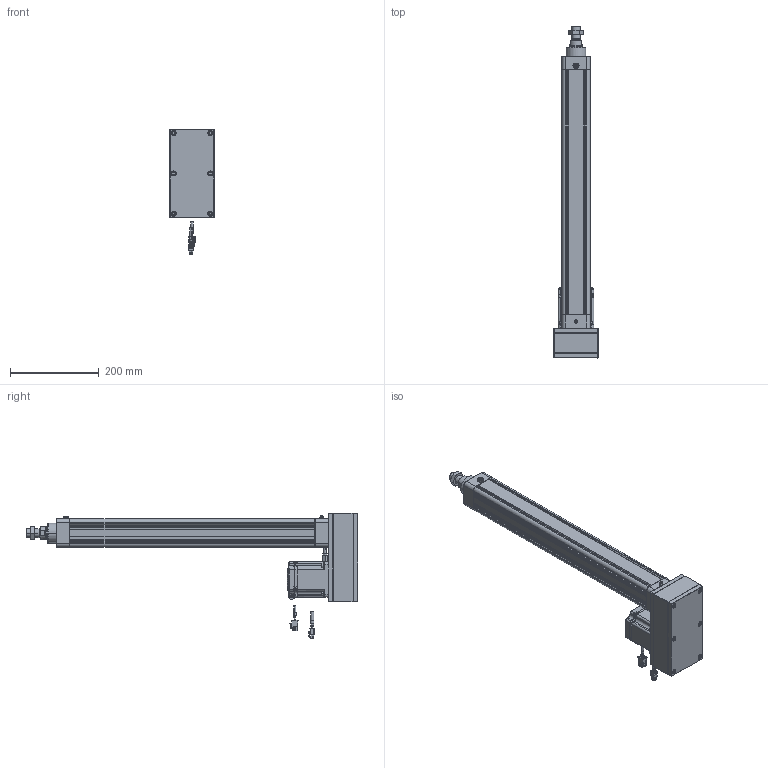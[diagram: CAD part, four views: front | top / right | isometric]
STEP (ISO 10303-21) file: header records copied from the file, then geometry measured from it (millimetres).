
FILE_DESCRIPTION((''),'2;1');
FILE_NAME('HE50-D-100-X1_ASM','2020-04-07T',('ASUS20200'),(''),'CREO PARAMETRIC BY PTC INC, 2014190','CREO PARAMETRIC BY PTC INC, 2014190','');
FILE_SCHEMA(('CONFIG_CONTROL_DESIGN'));
Length unit declared in the file: millimetre
Products named in the file (27): HE50-D-P-001-X1; HE50-D-P-002-X1; HE50-D-P-003-X1; 6301ZZ; LGLM-M8-22; SLM-01; YZ-M6X1; HE50-P-010-X1-400W; _MHMF082L1A2; _CABLE_MOTOR_TOP_05; _MOTOR_CONNECTOR_2; _CABLE_BRAKE_TOP_05; _MHMF_CONNECTOR_9_PIN_A6; MHMF082L1A2M2_1_ASM; TD-6; M6X25; LM-M6X1; JX6X6X20; M6X25-DS; LM-M6-15; HE50-P-012-X1; HE50-P-013-X1; M6X60; HE50-D-P-005-X1; HE50-D-P-004-X1; HE50-D-P-008-X1; HE50-D-100-X1_ASM
Assembly tree (48 placements, depth 3):
  HE50-D-100-X1_ASM
    HE50-D-P-001-X1
    HE50-D-P-002-X1
    HE50-D-P-003-X1
    6301ZZ
    LGLM-M8-22  x8
    SLM-01
    YZ-M6X1
    HE50-P-010-X1-400W
    MHMF082L1A2M2_1_ASM
      _MHMF082L1A2
      _CABLE_MOTOR_TOP_05
      _MOTOR_CONNECTOR_2
      _CABLE_BRAKE_TOP_05
      _MHMF_CONNECTOR_9_PIN_A6
    TD-6  x4
    M6X25  x4
    LM-M6X1  x5
    JX6X6X20
    M6X25-DS
    LM-M6-15
    HE50-P-012-X1
    HE50-P-013-X1
    M6X60  x6
    HE50-D-P-005-X1
    HE50-D-P-004-X1
    HE50-D-P-008-X1
Bounding box: 100 x 748.5 x 283.65 mm (x, y, z)
Volume: 2361308.4 mm3; surface area: 658696.4 mm2
Topology: 47 solids, 74 shells, 2788 faces, 6672 edges, 4118 vertices
Faces by surface type: plane 1227, cylinder 739, cone 679, torus 110, sphere 30, bspline 3
Entity records: 66770 total; most frequent: CARTESIAN_POINT 12679, DIRECTION 11779, ORIENTED_EDGE 10664, EDGE_CURVE 5376, AXIS2_PLACEMENT_3D 4343, VERTEX_POINT 3337, VECTOR 3093, LINE 3093
